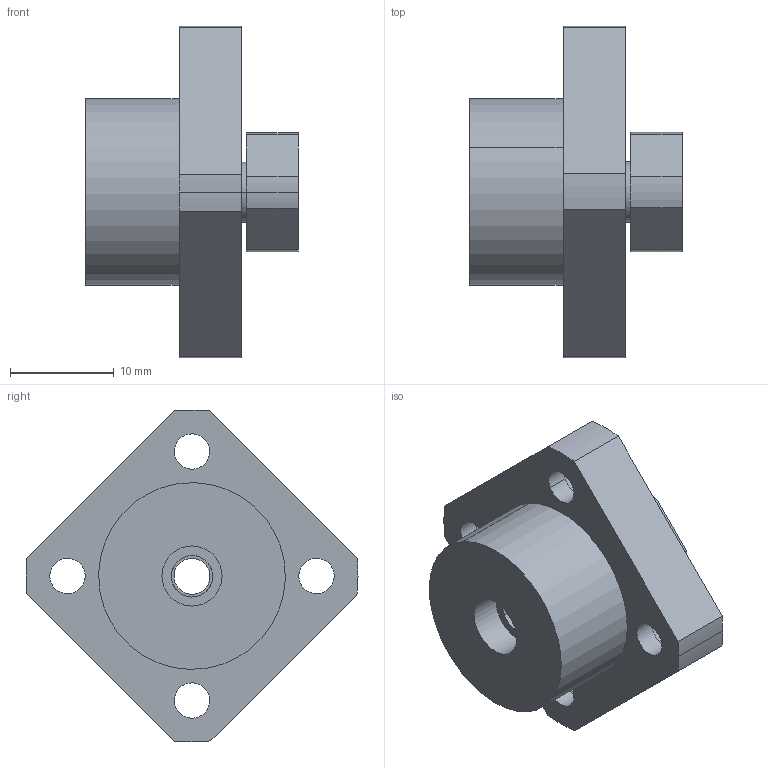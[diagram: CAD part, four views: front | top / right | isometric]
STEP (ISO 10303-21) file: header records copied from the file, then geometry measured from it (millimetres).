
FILE_DESCRIPTION(('CATIA V5 STEP Exchange'),'2;1');
FILE_NAME('D:\서포트 완성도면\FK\fk4p5.stp','2014-02-20T10:15:20+00:00',('none'),('none'),'CATIA Version 5 Release 18 GA (IN-10)','CATIA V5 STEP AP203','none');
FILE_SCHEMA(('CONFIG_CONTROL_DESIGN'));
Length unit declared in the file: millimetre
Products named in the file (1): FK4P5
Assembly tree (3 placements, depth 2):
  FK4P5
    #56
    #1206
    #1380
Bounding box: 20.5 x 32 x 31.98 mm (x, y, z)
Volume: 5555.7 mm3; surface area: 3409.2 mm2
Topology: 3 solids, 3 shells, 63 faces, 150 edges, 100 vertices
Faces by surface type: cylinder 42, plane 21
Entity records: 1778 total; most frequent: ORIENTED_EDGE 300, CARTESIAN_POINT 291, DIRECTION 232, EDGE_CURVE 150, AXIS2_PLACEMENT_3D 125, VERTEX_POINT 100, CIRCLE 84, EDGE_LOOP 84
